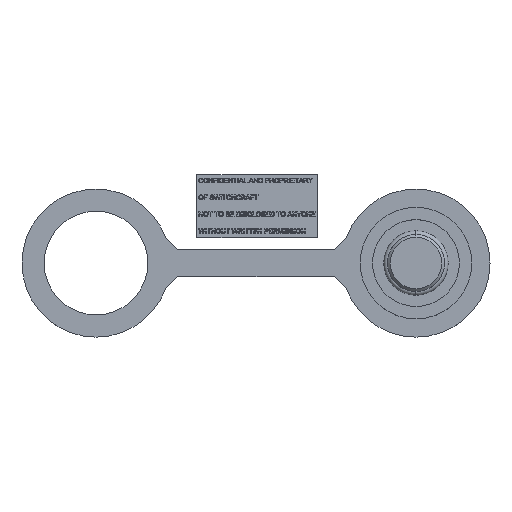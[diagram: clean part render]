
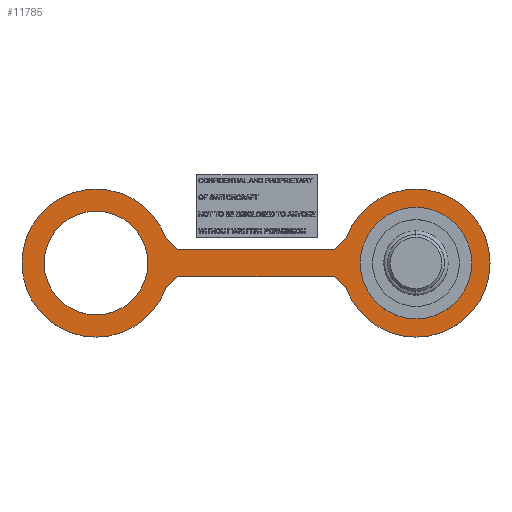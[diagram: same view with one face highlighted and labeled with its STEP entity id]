
A CAD part, top view. The second image highlights one B-rep face of the part: STEP entity #11785.
In plain terms, the highlighted planar face has unit normal (0, 0, 1).
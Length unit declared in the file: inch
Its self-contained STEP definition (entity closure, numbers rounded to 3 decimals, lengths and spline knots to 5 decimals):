
#5577 = CARTESIAN_POINT ( 'NONE',  ( 1.04328, -0.106, -0.233 ) ) ;
#5578 = DIRECTION ( 'NONE',  ( 0., 1., 0. ) ) ;
#5579 = DIRECTION ( 'NONE',  ( 0., 0., 1. ) ) ;
#5580 = CARTESIAN_POINT ( 'NONE',  ( 1.333, 0., -0.233 ) ) ;
#5581 = AXIS2_PLACEMENT_3D ( 'NONE', #5580, #5579, #5578 ) ;
#5582 = CIRCLE ( 'NONE', #5581, 0.3085 ) ;
#5583 = CARTESIAN_POINT ( 'NONE',  ( 1.333, -0.3085, -0.233 ) ) ;
#5693 = CARTESIAN_POINT ( 'NONE',  ( 1.333, -0.2325, -0.233 ) ) ;
#5694 = DIRECTION ( 'NONE',  ( 0., 1., 0. ) ) ;
#5695 = DIRECTION ( 'NONE',  ( 0., 0., 1. ) ) ;
#5696 = AXIS2_PLACEMENT_3D ( 'NONE', #5703, #5695, #5694 ) ;
#5697 = CIRCLE ( 'NONE', #5696, 0.2325 ) ;
#5703 = CARTESIAN_POINT ( 'NONE',  ( 1.333, 0., -0.233 ) ) ;
#5778 = CARTESIAN_POINT ( 'NONE',  ( 1.333, 0., -0.233 ) ) ;
#5779 = CIRCLE ( 'NONE', #5808, 0.3085 ) ;
#5804 = CARTESIAN_POINT ( 'NONE',  ( 1.04328, 0.106, -0.233 ) ) ;
#5805 = CARTESIAN_POINT ( 'NONE',  ( 1.333, 0.3085, -0.233 ) ) ;
#5806 = DIRECTION ( 'NONE',  ( 0., 1., 0. ) ) ;
#5807 = DIRECTION ( 'NONE',  ( 0., 0., 1. ) ) ;
#5808 = AXIS2_PLACEMENT_3D ( 'NONE', #5778, #5807, #5806 ) ;
#5847 = DIRECTION ( 'NONE',  ( 1., 0., 0. ) ) ;
#5848 = VECTOR ( 'NONE', #5847, 39.37008 ) ;
#5849 = CARTESIAN_POINT ( 'NONE',  ( 0.33972, -0.056, -0.233 ) ) ;
#5850 = LINE ( 'NONE', #5849, #5848 ) ;
#5851 = CARTESIAN_POINT ( 'NONE',  ( 0.33972, -0.056, -0.233 ) ) ;
#5852 = DIRECTION ( 'NONE',  ( 0.707, 0.707, 0. ) ) ;
#5853 = VECTOR ( 'NONE', #5852, 39.37008 ) ;
#5854 = CARTESIAN_POINT ( 'NONE',  ( 0.33972, -0.056, -0.233 ) ) ;
#5855 = LINE ( 'NONE', #5854, #5853 ) ;
#5856 = DIRECTION ( 'NONE',  ( 0., 1., 0. ) ) ;
#5857 = DIRECTION ( 'NONE',  ( 0., 0., 1. ) ) ;
#5858 = CARTESIAN_POINT ( 'NONE',  ( 0., 0., -0.233 ) ) ;
#5859 = AXIS2_PLACEMENT_3D ( 'NONE', #5858, #5857, #5856 ) ;
#5860 = CIRCLE ( 'NONE', #5859, 0.3085 ) ;
#5919 = DIRECTION ( 'NONE',  ( -0.707, 0.707, 0. ) ) ;
#5920 = VECTOR ( 'NONE', #5919, 39.37008 ) ;
#5921 = CARTESIAN_POINT ( 'NONE',  ( 0.33972, 0.056, -0.233 ) ) ;
#5922 = LINE ( 'NONE', #5921, #5920 ) ;
#5926 = AXIS2_PLACEMENT_3D ( 'NONE', #5984, #5986, #5985 ) ;
#5927 = CIRCLE ( 'NONE', #5926, 0.3085 ) ;
#5939 = DIRECTION ( 'NONE',  ( 0., 1., 0. ) ) ;
#5940 = DIRECTION ( 'NONE',  ( 0., 0., 1. ) ) ;
#5941 = CARTESIAN_POINT ( 'NONE',  ( 1.333, 0., -0.233 ) ) ;
#5942 = AXIS2_PLACEMENT_3D ( 'NONE', #5941, #5940, #5939 ) ;
#5943 = CIRCLE ( 'NONE', #5942, 0.3085 ) ;
#5944 = CARTESIAN_POINT ( 'NONE',  ( 0.99328, -0.056, -0.233 ) ) ;
#5945 = DIRECTION ( 'NONE',  ( 0.707, -0.707, 0. ) ) ;
#5946 = VECTOR ( 'NONE', #5945, 39.37008 ) ;
#5947 = CARTESIAN_POINT ( 'NONE',  ( 0.99328, -0.056, -0.233 ) ) ;
#5948 = LINE ( 'NONE', #5947, #5946 ) ;
#5983 = CARTESIAN_POINT ( 'NONE',  ( 0.28972, -0.106, -0.233 ) ) ;
#5984 = CARTESIAN_POINT ( 'NONE',  ( 0., 0., -0.233 ) ) ;
#5985 = DIRECTION ( 'NONE',  ( 0., 1., 0. ) ) ;
#5986 = DIRECTION ( 'NONE',  ( 0., 0., 1. ) ) ;
#5996 = CARTESIAN_POINT ( 'NONE',  ( 0., 0.216, -0.233 ) ) ;
#5997 = DIRECTION ( 'NONE',  ( 0., 1., 0. ) ) ;
#5998 = DIRECTION ( 'NONE',  ( 0., 0., 1. ) ) ;
#5999 = CARTESIAN_POINT ( 'NONE',  ( 0., 0., -0.233 ) ) ;
#6000 = AXIS2_PLACEMENT_3D ( 'NONE', #5999, #5998, #5997 ) ;
#6001 = CIRCLE ( 'NONE', #6000, 0.216 ) ;
#6002 = CARTESIAN_POINT ( 'NONE',  ( 0., -0.216, -0.233 ) ) ;
#6007 = DIRECTION ( 'NONE',  ( -0.707, -0.707, 0. ) ) ;
#6008 = VECTOR ( 'NONE', #6007, 39.37008 ) ;
#6009 = CARTESIAN_POINT ( 'NONE',  ( 0.99328, 0.056, -0.233 ) ) ;
#6010 = LINE ( 'NONE', #6009, #6008 ) ;
#6107 = CARTESIAN_POINT ( 'NONE',  ( 0.28972, 0.106, -0.233 ) ) ;
#6108 = CARTESIAN_POINT ( 'NONE',  ( 0.33972, 0.056, -0.233 ) ) ;
#6109 = DIRECTION ( 'NONE',  ( -1., 0., 0. ) ) ;
#6110 = VECTOR ( 'NONE', #6109, 39.37008 ) ;
#6111 = CARTESIAN_POINT ( 'NONE',  ( 0.33972, 0.056, -0.233 ) ) ;
#6112 = LINE ( 'NONE', #6111, #6110 ) ;
#6113 = CARTESIAN_POINT ( 'NONE',  ( 0.99328, 0.056, -0.233 ) ) ;
#6114 = CARTESIAN_POINT ( 'NONE',  ( 1.333, 0.2325, -0.233 ) ) ;
#6128 = CARTESIAN_POINT ( 'NONE',  ( 0., -0.3085, -0.233 ) ) ;
#6129 = CARTESIAN_POINT ( 'NONE',  ( 0., 0.3085, -0.233 ) ) ;
#6130 = DIRECTION ( 'NONE',  ( 0., 1., 0. ) ) ;
#6131 = DIRECTION ( 'NONE',  ( 0., 0., 1. ) ) ;
#6132 = CARTESIAN_POINT ( 'NONE',  ( 0., 0., -0.233 ) ) ;
#6133 = AXIS2_PLACEMENT_3D ( 'NONE', #6132, #6131, #6130 ) ;
#6134 = CIRCLE ( 'NONE', #6133, 0.3085 ) ;
#6168 = DIRECTION ( 'NONE',  ( 0., 1., 0. ) ) ;
#6169 = DIRECTION ( 'NONE',  ( 0., 0., 1. ) ) ;
#6170 = CARTESIAN_POINT ( 'NONE',  ( 1.333, 0., -0.233 ) ) ;
#6171 = AXIS2_PLACEMENT_3D ( 'NONE', #6170, #6169, #6168 ) ;
#6177 = CIRCLE ( 'NONE', #6171, 0.2325 ) ;
#6223 = DIRECTION ( 'NONE',  ( 0., 1., 0. ) ) ;
#6224 = DIRECTION ( 'NONE',  ( 0., 0., 1. ) ) ;
#6225 = AXIS2_PLACEMENT_3D ( 'NONE', #6230, #6224, #6223 ) ;
#6226 = CIRCLE ( 'NONE', #6225, 0.216 ) ;
#6227 = DIRECTION ( 'NONE',  ( 0., 1., 0. ) ) ;
#6228 = DIRECTION ( 'NONE',  ( 0., 0., 1. ) ) ;
#6229 = AXIS2_PLACEMENT_3D ( 'NONE', #6231, #6228, #6227 ) ;
#6230 = CARTESIAN_POINT ( 'NONE',  ( 0., 0., -0.233 ) ) ;
#6231 = CARTESIAN_POINT ( 'NONE',  ( 1.333, 0., -0.233 ) ) ;
#6232 = PLANE ( 'NONE',  #6229 ) ;
#6233 = FACE_BOUND ( 'NONE', #11627, .T. ) ;
#6234 = FACE_OUTER_BOUND ( 'NONE', #11790, .T. ) ;
#6235 = FACE_BOUND ( 'NONE', #11786, .T. ) ;
#11504 = EDGE_CURVE ( 'NONE', #11765, #11505, #5697, .T. ) ;
#11505 = VERTEX_POINT ( 'NONE', #5693 ) ;
#11571 = EDGE_CURVE ( 'NONE', #11572, #11573, #5779, .T. ) ;
#11572 = VERTEX_POINT ( 'NONE', #5805 ) ;
#11573 = VERTEX_POINT ( 'NONE', #5804 ) ;
#11582 = VERTEX_POINT ( 'NONE', #5583 ) ;
#11584 = EDGE_CURVE ( 'NONE', #11585, #11582, #5582, .T. ) ;
#11585 = VERTEX_POINT ( 'NONE', #5577 ) ;
#11588 = EDGE_CURVE ( 'NONE', #11795, #11590, #5927, .T. ) ;
#11590 = VERTEX_POINT ( 'NONE', #5983 ) ;
#11617 = EDGE_CURVE ( 'NONE', #11770, #11773, #5922, .T. ) ;
#11618 = ORIENTED_EDGE ( 'NONE', *, *, #11619, .T. ) ;
#11619 = EDGE_CURVE ( 'NONE', #11773, #11794, #5860, .T. ) ;
#11620 = ORIENTED_EDGE ( 'NONE', *, *, #11793, .T. ) ;
#11621 = ORIENTED_EDGE ( 'NONE', *, *, #11588, .T. ) ;
#11622 = ORIENTED_EDGE ( 'NONE', *, *, #11623, .T. ) ;
#11623 = EDGE_CURVE ( 'NONE', #11590, #11624, #5855, .T. ) ;
#11624 = VERTEX_POINT ( 'NONE', #5851 ) ;
#11625 = ORIENTED_EDGE ( 'NONE', *, *, #11626, .T. ) ;
#11626 = EDGE_CURVE ( 'NONE', #11624, #11630, #5850, .T. ) ;
#11627 = EDGE_LOOP ( 'NONE', ( #11812, #11814 ) ) ;
#11628 = ORIENTED_EDGE ( 'NONE', *, *, #11629, .T. ) ;
#11629 = EDGE_CURVE ( 'NONE', #11630, #11585, #5948, .T. ) ;
#11630 = VERTEX_POINT ( 'NONE', #5944 ) ;
#11631 = ORIENTED_EDGE ( 'NONE', *, *, #11584, .T. ) ;
#11632 = ORIENTED_EDGE ( 'NONE', *, *, #11633, .T. ) ;
#11633 = EDGE_CURVE ( 'NONE', #11582, #11572, #5943, .T. ) ;
#11634 = ORIENTED_EDGE ( 'NONE', *, *, #11571, .T. ) ;
#11635 = ORIENTED_EDGE ( 'NONE', *, *, #11636, .T. ) ;
#11636 = EDGE_CURVE ( 'NONE', #11573, #11766, #6010, .T. ) ;
#11706 = VERTEX_POINT ( 'NONE', #6002 ) ;
#11708 = EDGE_CURVE ( 'NONE', #11706, #11709, #6001, .T. ) ;
#11709 = VERTEX_POINT ( 'NONE', #5996 ) ;
#11765 = VERTEX_POINT ( 'NONE', #6114 ) ;
#11766 = VERTEX_POINT ( 'NONE', #6113 ) ;
#11767 = ORIENTED_EDGE ( 'NONE', *, *, #11769, .T. ) ;
#11769 = EDGE_CURVE ( 'NONE', #11766, #11770, #6112, .T. ) ;
#11770 = VERTEX_POINT ( 'NONE', #6108 ) ;
#11772 = ORIENTED_EDGE ( 'NONE', *, *, #11617, .T. ) ;
#11773 = VERTEX_POINT ( 'NONE', #6107 ) ;
#11785 = ADVANCED_FACE ( 'NONE', ( #6235, #6234, #6233 ), #6232, .T. ) ;
#11786 = EDGE_LOOP ( 'NONE', ( #11787, #11789 ) ) ;
#11787 = ORIENTED_EDGE ( 'NONE', *, *, #11788, .F. ) ;
#11788 = EDGE_CURVE ( 'NONE', #11709, #11706, #6226, .T. ) ;
#11789 = ORIENTED_EDGE ( 'NONE', *, *, #11708, .F. ) ;
#11790 = EDGE_LOOP ( 'NONE', ( #11628, #11631, #11632, #11634, #11635, #11767, #11772, #11618, #11620, #11621, #11622, #11625 ) ) ;
#11793 = EDGE_CURVE ( 'NONE', #11794, #11795, #6134, .T. ) ;
#11794 = VERTEX_POINT ( 'NONE', #6129 ) ;
#11795 = VERTEX_POINT ( 'NONE', #6128 ) ;
#11812 = ORIENTED_EDGE ( 'NONE', *, *, #11813, .F. ) ;
#11813 = EDGE_CURVE ( 'NONE', #11505, #11765, #6177, .T. ) ;
#11814 = ORIENTED_EDGE ( 'NONE', *, *, #11504, .F. ) ;
